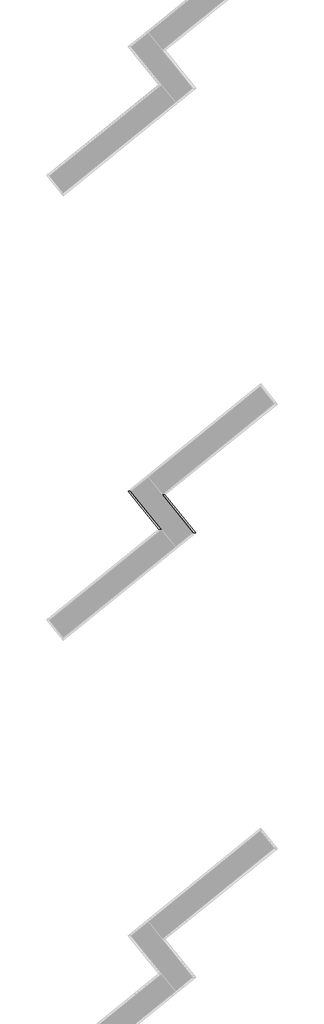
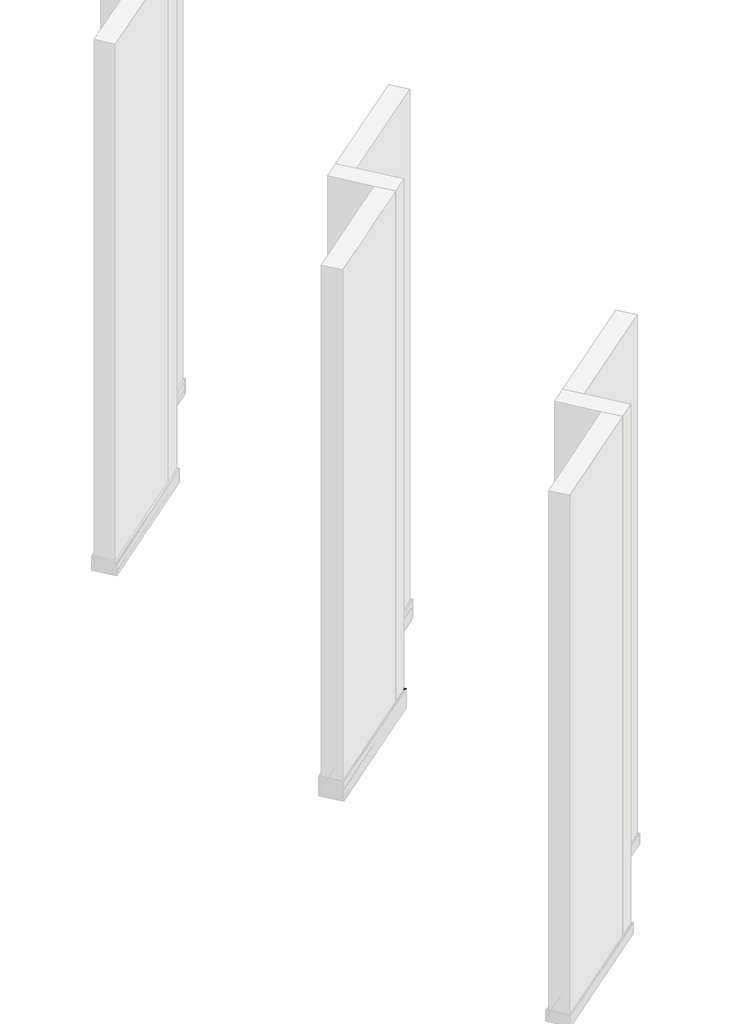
# One storey, part 8 of 21: 2 proxies.
"""IFC4 building model written with IfcOpenShell, lengths in millimetres."""

import ifcopenshell
import ifcopenshell.guid

model = None  # the IFC model being written
_history = None  # IfcOwnerHistory: only IFC2X3 demands one
_inside = {}  # id of a spatial element -> (the spatial element, [elements in it])
_under = {}  # id of a project, library or spatial element -> (it, [spatial elements below it])
_declared = {}  # id of a project -> (the project, [libraries it declares])
_typed = {}  # id of a type object -> (the type object, [elements of that type])
_made_of = {}  # id of a material, layer set ... -> (it, [elements and type objects made of it])


def new_model(schema):
    """Start an empty IFC model of exactly this schema.

    Asked for "IFC4X3", IfcOpenShell would pick the latest addendum, in which some entities
    have other attributes; the version numbers below select the first issue.
    IFC2X3 requires an IfcOwnerHistory on every rooted entity: one is made here for all.
    """
    global model, _history
    if schema == "IFC4X3":
        model = ifcopenshell.file(schema_version=(4, 3, 0, 0))
    else:
        model = ifcopenshell.file(schema=schema)
    _inside.clear()
    _under.clear()
    _declared.clear()
    _typed.clear()
    _made_of.clear()
    _history = None
    if model.schema == "IFC2X3":
        org = make("IfcOrganization", Name="unknown")
        user = make(
            "IfcPersonAndOrganization",
            ThePerson=make("IfcPerson", FamilyName="unknown"),
            TheOrganization=org,
        )
        app = make(
            "IfcApplication",
            ApplicationDeveloper=org,
            Version="unknown",
            ApplicationFullName="unknown",
            ApplicationIdentifier="unknown",
        )
        _history = make(
            "IfcOwnerHistory",
            OwningUser=user,
            OwningApplication=app,
            ChangeAction="ADDED",
            CreationDate=0,
        )
    return model


def make(cls, **values):
    """One entity of the class cls with the attributes given. An attribute that is None is left unset."""
    return model.create_entity(
        cls, **{name: value for name, value in values.items() if value is not None}
    )


def rooted(cls, **values):
    """An entity with a GlobalId (a new one), such as an element, a storey or a relation."""
    return make(cls, GlobalId=ifcopenshell.guid.new(), OwnerHistory=_history, **values)


def si_unit(unit_type, name, prefix=None):
    """IfcSIUnit, for example si_unit("LENGTHUNIT", "METRE", prefix="MILLI")."""
    return make("IfcSIUnit", UnitType=unit_type, Prefix=prefix, Name=name)


def assignment(units):
    """IfcUnitAssignment: the units of a project."""
    return None if units is None else make("IfcUnitAssignment", Units=units)


def point(xyz):
    """IfcCartesianPoint."""
    return None if xyz is None else make("IfcCartesianPoint", Coordinates=xyz)


def direction(xyz):
    """IfcDirection."""
    return None if xyz is None else make("IfcDirection", DirectionRatios=xyz)


def frame(location, z_axis=None, x_axis=None):
    """IfcAxis2Placement3D, a coordinate frame: its origin and axes. An axis left out is left unset."""
    return make(
        "IfcAxis2Placement3D",
        Location=point(location),
        Axis=direction(z_axis),
        RefDirection=direction(x_axis),
    )


def origin():
    """The frame at (0, 0, 0) with its axes left unset."""
    return frame((0.0, 0.0, 0.0))


def place(relative_to, where):
    """IfcLocalPlacement: puts the frame where relative to a parent placement (None: the world)."""
    return make(
        "IfcLocalPlacement", PlacementRelTo=relative_to, RelativePlacement=where
    )


def context(
    kind, dimensions, precision=None, world=None, true_north=None, identifier=None
):
    """IfcGeometricRepresentationContext, for example the 3D "Model" context."""
    return make(
        "IfcGeometricRepresentationContext",
        ContextIdentifier=identifier,
        ContextType=kind,
        CoordinateSpaceDimension=dimensions,
        Precision=precision,
        WorldCoordinateSystem=world,
        TrueNorth=true_north,
    )


def project(units=None, contexts=None):
    """IfcProject with its units and contexts."""
    return rooted(
        "IfcProject",
        Name="project",
        RepresentationContexts=contexts,
        UnitsInContext=assignment(units),
    )


def spatial(cls, under=None, at=None, **own):
    """A site, building, storey or space (cls), placed at a placement, below another one or the project."""
    s = rooted(cls, ObjectPlacement=at, **own)
    if under is not None:
        _under.setdefault(under.id(), (under, []))[1].append(s)
    return s


def ellipse_curve(where, semi_axis1, semi_axis2):
    """IfcEllipse in the frame where."""
    return make(
        "IfcEllipse", Position=where, SemiAxis1=semi_axis1, SemiAxis2=semi_axis2
    )


def shape(context_of_items, identifier, shape_type, items):
    """IfcShapeRepresentation: the items that make up one representation, for example the "Body"."""
    return make(
        "IfcShapeRepresentation",
        ContextOfItems=context_of_items,
        RepresentationIdentifier=identifier,
        RepresentationType=shape_type,
        Items=items,
    )


def made_of(thing, what):
    """Note that an element or type object is made of a material, layer set ...; save() writes the relation."""
    if what is not None:
        _made_of.setdefault(what.id(), (what, []))[1].append(thing)
    return thing


def element(
    cls,
    number,
    at=None,
    inside=None,
    cuts=None,
    type_object=None,
    material=None,
    context=None,
    identifier="Body",
    shape_type=None,
    held_by="IfcProductDefinitionShape",
    body=None,
    shapes=None,
    **own,
):
    """One element of the class cls, such as IfcWall. Its Tag is "e" and its number.

    at: its placement. inside: the storey or other place that contains it. cuts: it is an
    opening in that element (IfcRelVoidsElement). A single representation is given by context,
    identifier, shape_type and body (its items); several are given by shapes. held_by: the class
    of the entity that holds the representations. save() writes the other relations.
    """
    e = rooted(cls, Tag="e%d" % number, ObjectPlacement=at, **own)
    if body is not None:
        shapes = [shape(context, identifier, shape_type, body)]
    if shapes is not None:
        e.Representation = make(held_by, Representations=shapes)
    if inside is not None:
        _inside.setdefault(inside.id(), (inside, []))[1].append(e)
    if cuts is not None:
        rooted(
            "IfcRelVoidsElement", RelatingBuildingElement=cuts, RelatedOpeningElement=e
        )
    if type_object is not None:
        _typed.setdefault(type_object.id(), (type_object, []))[1].append(e)
    return made_of(e, material)


def aggregate(whole, parts):
    """IfcRelAggregates: a whole, such as a stair, and the parts it consists of."""
    return rooted("IfcRelAggregates", RelatingObject=whole, RelatedObjects=parts)


def save(model, path):
    """Write the relations noted so far, then the file.

    IfcRelAggregates (storeys below a building ...), IfcRelContainedInSpatialStructure (elements
    in a storey), IfcRelDefinesByType, IfcRelAssociatesMaterial and IfcRelDeclares: one each for
    every whole, place, type object, material and project.
    """
    for whole, parts in _under.values():
        aggregate(whole, parts)
    for where, things in _inside.values():
        rooted(
            "IfcRelContainedInSpatialStructure",
            RelatedElements=things,
            RelatingStructure=where,
        )
    for kind, things in _typed.values():
        rooted("IfcRelDefinesByType", RelatedObjects=things, RelatingType=kind)
    for what, things in _made_of.values():
        rooted("IfcRelAssociatesMaterial", RelatedObjects=things, RelatingMaterial=what)
    for by, libraries in _declared.values():
        rooted("IfcRelDeclares", RelatingContext=by, RelatedDefinitions=libraries)
    model.write(path)


def plane_surface(at):
    """IfcPlane: the flat surface through the origin of the frame at, square to its z axis."""
    return make("IfcPlane", Position=at)


def cylinder_surface(at, radius):
    """IfcCylindricalSurface: all points at the distance radius from the z axis of the frame at."""
    return make("IfcCylindricalSurface", Position=at, Radius=radius)


def advanced_brep(points, edges, surfaces, faces):
    """IfcAdvancedBrep: a solid bounded by faces that lie on surfaces and meet in shared edges.

    An edge is (start, end): straight between two places in points (the first is 0);
    or (start, end, curve); or (start, end, curve, False) where it runs against its curve.
    A face is (place in surfaces, loops), or (place, loops, False) where it looks against
    its surface's normal. A loop lists edges by number (the first is 1), with a minus sign
    where the edge is run from its end to its start. The first loop is the outer one.
    """
    corners = [point(p) for p in points]
    vertices = [make("IfcVertexPoint", VertexGeometry=c) for c in corners]
    made = []
    for start, end, *more in edges:
        made.append(
            make(
                "IfcEdgeCurve",
                EdgeStart=vertices[start],
                EdgeEnd=vertices[end],
                EdgeGeometry=more[0] if more else make("IfcPolyline", Points=[corners[start], corners[end]]),
                SameSense=more[1] if len(more) > 1 else True,
            )
        )
    hull = []
    for where, loops, *sense in faces:
        bounds = []
        for j, loop in enumerate(loops):
            ring = [make("IfcOrientedEdge", EdgeElement=made[abs(k) - 1], Orientation=k > 0) for k in loop]
            bounds.append(
                make(
                    "IfcFaceOuterBound" if j == 0 else "IfcFaceBound",
                    Bound=make("IfcEdgeLoop", EdgeList=ring),
                    Orientation=True,
                )
            )
        hull.append(make("IfcAdvancedFace", Bounds=bounds, FaceSurface=surfaces[where], SameSense=sense[0] if sense else True))
    return make("IfcAdvancedBrep", Outer=make("IfcClosedShell", CfsFaces=hull))


model = new_model("IFC4")

# Units and contexts
model_context = context("Model", 3, world=origin())
ifc_project = project(units=[si_unit("LENGTHUNIT", "METRE", prefix="MILLI")], contexts=[model_context])

# Site, building, storey
site = spatial("IfcSite", under=ifc_project)
building = spatial("IfcBuilding", under=site)
storey = spatial("IfcBuildingStorey", under=building, Name="Izofleks 2D View", Elevation=0.0)

# Proxies
placement = place(None, origin())
element("IfcBuildingElementProxy", 1, Name="Wall Sweeps", at=placement, inside=storey, context=model_context, shape_type="AdvancedBrep", body=[
    advanced_brep(
    [(2291.5537649, -5174.0238176, 49.9746979), (2293.8573559, -5174.2659347, 58.8370339), (2295.2404015, -5174.4112987, 59.6553004), (2298.9439622, -5174.8005586, 59.6553004), (2298.9439622, -5174.8005586, 103.6583819), (2294.4432653, -5174.3275163, 103.6583819), (2294.4432653, -5174.3275163, 101.6584596), (2289.5206376, -5173.8101273, 101.6584596), (2289.5206376, -5173.8101273, 102.9584585), (2292.3335659, -5174.105778, 102.9584585), (2292.3335659, -5174.105778, 104.9583814), (2300.7723685, -5174.9927318, 104.9583814), (2300.7723685, -5174.9927318, 2.9583289), (2297.9590138, -5174.6970364, 2.9583289), (2297.9590138, -5174.6970364, 0.4656126), (2296.1306076, -5174.5048631, 0.4656126), (2296.1306076, -5174.5048631, 4.2583289), (2298.9439622, -5174.8005586, 4.2583289), (2298.9439622, -5174.8005586, 28.7655004), (2295.5576132, -5174.444639, 28.7655004), (2295.2879611, -5174.4162974, 27.7479135), (2296.6513787, -5174.5595984, 27.7479135), (2297.3367663, -5174.6316355, 27.1404306), (2294.6001982, -5174.3440106, 18.30079), (2296.8922655, -5174.5849166, 18.30079), (2296.8983438, -5174.5855554, 16.99999), (2289.8664199, -5173.8464705, 16.99999), (2289.8664199, -5173.8464705, 0.0), (2288.0380278, -5173.6542987, 0.0), (2288.0380278, -5173.6542987, 54.99999), (2289.8664199, -5173.8464705, 53.99999), (2289.8664199, -5173.8464705, 47.88979), (2292.7262724, -5174.1470531, 47.88979), (2293.3982189, -5174.2176775, 48.8483083), (2430.0042509, -5344.9959291, 49.9746979), (2431.8487049, -5345.189789, 48.8483083), (2431.1767584, -5345.1191646, 47.88979), (2428.316906, -5344.818582, 47.88979), (2428.316906, -5344.818582, 53.99999), (2426.4885138, -5344.6264102, 54.99999), (2426.4885138, -5344.6264102, 0.0), (2428.316906, -5344.818582, 0.0), (2428.316906, -5344.818582, 16.99999), (2435.3488299, -5345.557667, 16.99999), (2435.3427515, -5345.5570281, 18.30079), (2433.0506843, -5345.3161221, 18.30079), (2435.7872524, -5345.603747, 27.1404306), (2435.1018647, -5345.5317099, 27.7479135), (2433.7384472, -5345.3884089, 27.7479135), (2434.0080992, -5345.4167505, 28.7655004), (2437.3944482, -5345.7726701, 28.7655004), (2437.3944482, -5345.7726701, 4.2583289), (2434.5810936, -5345.4769746, 4.2583289), (2434.5810936, -5345.4769746, 0.4656126), (2436.4094999, -5345.6691479, 0.4656126), (2436.4094999, -5345.6691479, 2.9583289), (2439.2228545, -5345.9648434, 2.9583289), (2439.2228545, -5345.9648434, 104.9583814), (2430.7840519, -5345.0778895, 104.9583814), (2430.7840519, -5345.0778895, 102.9584585), (2427.9711237, -5344.7822388, 102.9584585), (2427.9711237, -5344.7822388, 101.6584596), (2432.8937514, -5345.2996278, 101.6584596), (2432.8937514, -5345.2996278, 103.6583819), (2437.3944482, -5345.7726701, 103.6583819), (2437.3944482, -5345.7726701, 59.6553004), (2433.6908876, -5345.3834102, 59.6553004), (2432.307842, -5345.2380463, 58.8370339)],
    [
        (0, 1),
        (1, 2, ellipse_curve(frame((2295.2404015, -5174.4112987, 58.6553004), z_axis=(0.10452846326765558, 0.9945218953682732, 0.0), x_axis=(-0.9945218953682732, 0.10452846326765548, 0.0)), 1.4142136, 1.0)),
        (2, 3),
        (3, 4),
        (4, 5),
        (5, 6),
        (6, 7),
        (7, 8),
        (8, 9),
        (9, 10),
        (10, 11),
        (11, 12),
        (12, 13),
        (13, 14),
        (14, 15),
        (15, 16),
        (16, 17),
        (17, 18),
        (18, 19),
        (19, 20),
        (20, 21),
        (21, 22, ellipse_curve(frame((2296.6499722, -5174.5594505, 27.2479135), z_axis=(0.10452846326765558, 0.9945218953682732, 0.0), x_axis=(-0.9945218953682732, 0.10452846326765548, 0.0)), 0.7071082, 0.500001)),
        (22, 23),
        (23, 24),
        (24, 25, ellipse_curve(frame((2296.7280877, -5174.5676608, 17.649995), z_axis=(0.10452846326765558, 0.9945218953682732, 0.0), x_axis=(-0.9945218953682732, 0.10452846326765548, 0.0)), 0.935051, 0.6611809)),
        (25, 26),
        (26, 27),
        (27, 28),
        (28, 29),
        (29, 30, ellipse_curve(frame((2288.3885058, -5173.6911354, 53.9789482), z_axis=(0.10452846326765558, 0.9945218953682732, 0.0), x_axis=(-0.9945218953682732, 0.10452846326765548, 0.0)), 1.4863528, 1.0510102)),
        (30, 31),
        (31, 32),
        (32, 33),
        (33, 0, ellipse_curve(frame((2292.9368105, -5174.1691815, 49.7929644), z_axis=(0.10452846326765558, 0.9945218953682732, 0.0), x_axis=(-0.9945218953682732, 0.10452846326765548, 0.0)), 1.4142136, 1.0)),
        (34, 35, ellipse_curve(frame((2431.3872965, -5345.141293, 49.7929644), z_axis=(-0.1045284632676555, -0.9945218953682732, 0.0), x_axis=(-0.9945218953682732, 0.1045284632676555, 0.0)), 1.4142136, 1.0)),
        (35, 36),
        (36, 37),
        (37, 38),
        (38, 39, ellipse_curve(frame((2426.8389918, -5344.663247, 53.9789482), z_axis=(-0.1045284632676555, -0.9945218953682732, 0.0), x_axis=(-0.9945218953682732, 0.1045284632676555, 0.0)), 1.4863528, 1.0510102)),
        (39, 40),
        (40, 41),
        (41, 42),
        (42, 43),
        (43, 44, ellipse_curve(frame((2435.1785737, -5345.5397723, 17.649995), z_axis=(-0.1045284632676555, -0.9945218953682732, 0.0), x_axis=(-0.9945218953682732, 0.1045284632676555, 0.0)), 0.935051, 0.6611809)),
        (44, 45),
        (45, 46),
        (46, 47, ellipse_curve(frame((2435.1004582, -5345.5315621, 27.2479135), z_axis=(-0.1045284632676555, -0.9945218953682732, 0.0), x_axis=(-0.9945218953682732, 0.1045284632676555, 0.0)), 0.7071082, 0.500001)),
        (47, 48),
        (48, 49),
        (49, 50),
        (50, 51),
        (51, 52),
        (52, 53),
        (53, 54),
        (54, 55),
        (55, 56),
        (56, 57),
        (57, 58),
        (58, 59),
        (59, 60),
        (60, 61),
        (61, 62),
        (62, 63),
        (63, 64),
        (64, 65),
        (65, 66),
        (66, 67, ellipse_curve(frame((2433.6908876, -5345.3834102, 58.6553004), z_axis=(-0.1045284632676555, -0.9945218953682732, 0.0), x_axis=(-0.9945218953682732, 0.1045284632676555, 0.0)), 1.4142136, 1.0)),
        (67, 34),
        (0, 34),
        (67, 1),
        (66, 2),
        (65, 3),
        (64, 4),
        (63, 5),
        (62, 6),
        (61, 7),
        (60, 8),
        (59, 9),
        (58, 10),
        (57, 11),
        (56, 12),
        (55, 13),
        (54, 14),
        (53, 15),
        (52, 16),
        (51, 17),
        (50, 18),
        (49, 19),
        (48, 20),
        (47, 21),
        (46, 22),
        (45, 23),
        (44, 24),
        (43, 25),
        (42, 26),
        (41, 27),
        (40, 28),
        (39, 29),
        (38, 30),
        (37, 31),
        (36, 32),
        (35, 33),
    ],
    [
        plane_surface(frame((2288.0380278, -5173.6542987, -304.8), z_axis=(0.10452846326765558, 0.9945218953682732, 0.0), x_axis=(0.9945218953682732, -0.10452846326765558, 0.0))),
        plane_surface(frame((2426.4885138, -5344.6264102, 304.8), z_axis=(-0.1045284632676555, -0.9945218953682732, 0.0), x_axis=(-0.9945218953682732, 0.1045284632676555, 0.0))),
        plane_surface(frame((2291.5537649, -5174.0238176, 49.9746979), z_axis=(-0.7642047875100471, -0.6188408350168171, 0.18173349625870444), x_axis=(0.6293203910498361, -0.777145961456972, 0.0))),
        cylinder_surface(frame((2292.0177146, -5170.4316118, 58.6553004), z_axis=(-0.629320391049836, 0.7771459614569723, 0.0), x_axis=(-0.7642047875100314, -0.618840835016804, 0.1817334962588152)), 1.0),
        plane_surface(frame((2295.2404015, -5174.4112987, 59.6553004), z_axis=(0.0, 0.0, 1.0), x_axis=(0.6293203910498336, -0.777145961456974, 0.0))),
        plane_surface(frame((2298.9439622, -5174.8005586, 59.6553004), z_axis=(-0.777145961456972, -0.6293203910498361, 0.0), x_axis=(0.6293203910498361, -0.777145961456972, 0.0))),
        plane_surface(frame((2298.9439622, -5174.8005586, 103.6583819), z_axis=(0.0, 0.0, -1.0), x_axis=(0.6293203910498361, -0.777145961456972, 0.0))),
        plane_surface(frame((2294.4432653, -5174.3275163, 103.6583819), z_axis=(0.777145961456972, 0.6293203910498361, 0.0), x_axis=(0.6293203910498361, -0.777145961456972, 0.0))),
        plane_surface(frame((2294.4432653, -5174.3275163, 101.6584596), z_axis=(0.0, 0.0, -1.0), x_axis=(0.6293203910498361, -0.777145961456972, 0.0))),
        plane_surface(frame((2289.5206376, -5173.8101273, 101.6584596), z_axis=(-0.777145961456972, -0.6293203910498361, 0.0), x_axis=(0.6293203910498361, -0.777145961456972, 0.0))),
        plane_surface(frame((2289.5206376, -5173.8101273, 102.9584585), z_axis=(0.0, 0.0, 1.0), x_axis=(0.6293203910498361, -0.777145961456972, 0.0))),
        plane_surface(frame((2292.3335659, -5174.105778, 102.9584585), z_axis=(-0.777145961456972, -0.6293203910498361, 0.0), x_axis=(0.6293203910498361, -0.777145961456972, 0.0))),
        plane_surface(frame((2292.3335659, -5174.105778, 104.9583814), z_axis=(0.0, 0.0, 1.0), x_axis=(0.6293203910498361, -0.777145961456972, 0.0))),
        plane_surface(frame((2300.7723685, -5174.9927318, 104.9583814), z_axis=(0.7771459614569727, 0.6293203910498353, 0.0), x_axis=(0.6293203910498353, -0.7771459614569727, 0.0))),
        plane_surface(frame((2300.7723685, -5174.9927318, 2.9583289), z_axis=(0.0, 0.0, -1.0), x_axis=(0.6293203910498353, -0.7771459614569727, 0.0))),
        plane_surface(frame((2297.9590138, -5174.6970364, 2.9583289), z_axis=(0.777145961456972, 0.6293203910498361, 0.0), x_axis=(0.6293203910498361, -0.777145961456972, 0.0))),
        plane_surface(frame((2297.9590138, -5174.6970364, 0.4656126), z_axis=(0.0, 0.0, -1.0), x_axis=(0.6293203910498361, -0.777145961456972, 0.0))),
        plane_surface(frame((2296.1306076, -5174.5048631, 0.4656126), z_axis=(-0.777145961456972, -0.6293203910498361, 0.0), x_axis=(0.6293203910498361, -0.777145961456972, 0.0))),
        plane_surface(frame((2296.1306076, -5174.5048631, 4.2583289), z_axis=(0.0, 0.0, 1.0), x_axis=(0.6293203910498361, -0.777145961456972, 0.0))),
        plane_surface(frame((2298.9439622, -5174.8005586, 4.2583289), z_axis=(-0.777145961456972, -0.6293203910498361, 0.0), x_axis=(0.6293203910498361, -0.777145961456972, 0.0))),
        plane_surface(frame((2298.9439622, -5174.8005586, 28.7655004), z_axis=(0.0, 0.0, -1.0), x_axis=(0.6293203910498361, -0.777145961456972, 0.0))),
        plane_surface(frame((2295.5576132, -5174.444639, 28.7655004), z_axis=(0.7637090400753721, 0.6184393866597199, -0.1851519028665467), x_axis=(0.6293203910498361, -0.777145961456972, 0.0))),
        plane_surface(frame((2295.2879611, -5174.4162974, 27.7479135), z_axis=(0.0, 0.0, 1.0), x_axis=(0.6293203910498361, -0.777145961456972, 0.0))),
        cylinder_surface(frame((2292.7965759, -5169.8009024, 27.2479135), z_axis=(-0.6293203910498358, 0.7771459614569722, 0.0), x_axis=(0.7771459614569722, 0.6293203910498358, 0.0)), 0.500001),
        plane_surface(frame((2297.3367663, -5174.6316355, 27.1404306), z_axis=(0.7589775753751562, 0.6146079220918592, -0.21496544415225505), x_axis=(0.6293203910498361, -0.777145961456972, 0.0))),
        plane_surface(frame((2294.6001982, -5174.3440106, 18.30079), z_axis=(0.0, 0.0, 1.0), x_axis=(0.6293203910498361, -0.777145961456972, 0.0))),
        cylinder_surface(frame((2292.8397388, -5169.7659498, 17.649995), z_axis=(-0.6293203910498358, 0.7771459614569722, 0.0), x_axis=(0.7771459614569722, 0.6293203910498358, 0.0)), 0.6611809),
        plane_surface(frame((2296.8983438, -5174.5855554, 16.99999), z_axis=(0.0, 0.0, -1.0), x_axis=(0.6293203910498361, -0.777145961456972, 0.0))),
        plane_surface(frame((2289.8664199, -5173.8464705, 16.99999), z_axis=(0.777145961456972, 0.6293203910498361, 0.0), x_axis=(0.6293203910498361, -0.777145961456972, 0.0))),
        plane_surface(frame((2289.8664199, -5173.8464705, 0.0), z_axis=(0.0, 0.0, -1.0), x_axis=(0.6293203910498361, -0.777145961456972, 0.0))),
        plane_surface(frame((2288.0380278, -5173.6542987, 0.0), z_axis=(-0.777145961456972, -0.6293203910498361, 0.0), x_axis=(0.6293203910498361, -0.777145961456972, 0.0))),
        cylinder_surface(frame((2288.2316851, -5173.497478, 53.9789482), z_axis=(-0.6293203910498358, 0.7771459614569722, 0.0), x_axis=(0.7771459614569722, 0.6293203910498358, 0.0)), 1.0510102),
        plane_surface(frame((2289.8664199, -5173.8464705, 53.99999), z_axis=(0.777145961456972, 0.6293203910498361, 0.0), x_axis=(0.6293203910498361, -0.777145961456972, 0.0))),
        plane_surface(frame((2289.8664199, -5173.8464705, 47.88979), z_axis=(0.0, 0.0, 1.0), x_axis=(0.6293203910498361, -0.777145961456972, 0.0))),
        plane_surface(frame((2292.7262724, -5174.1470531, 47.88979), z_axis=(-0.6955364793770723, -0.5632343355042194, 0.4460897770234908), x_axis=(0.6293203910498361, -0.777145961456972, 0.0))),
        cylinder_surface(frame((2290.7448605, -5171.4623487, 49.7929644), z_axis=(-0.6293203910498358, 0.7771459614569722, 0.0), x_axis=(0.7771459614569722, 0.6293203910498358, 0.0)), 1.0),
    ],
    [
        (0, [[1, 2, 3, 4, 5, 6, 7, 8, 9, 10, 11, 12, 13, 14, 15, 16, 17, 18, 19, 20, 21, 22, 23, 24, 25, 26, 27, 28, 29, 30, 31, 32, 33, 34]]),
        (1, [[35, 36, 37, 38, 39, 40, 41, 42, 43, 44, 45, 46, 47, 48, 49, 50, 51, 52, 53, 54, 55, 56, 57, 58, 59, 60, 61, 62, 63, 64, 65, 66, 67, 68]]),
        (2, [[-1, 69, -68, 70]]),
        (3, [[-2, -70, -67, 71]]),
        (4, [[-3, -71, -66, 72]]),
        (5, [[-4, -72, -65, 73]]),
        (6, [[-5, -73, -64, 74]]),
        (7, [[-6, -74, -63, 75]]),
        (8, [[-7, -75, -62, 76]]),
        (9, [[-8, -76, -61, 77]]),
        (10, [[-9, -77, -60, 78]]),
        (11, [[-10, -78, -59, 79]]),
        (12, [[-11, -79, -58, 80]]),
        (13, [[-12, -80, -57, 81]]),
        (14, [[-13, -81, -56, 82]]),
        (15, [[-14, -82, -55, 83]]),
        (16, [[-15, -83, -54, 84]]),
        (17, [[-16, -84, -53, 85]]),
        (18, [[-17, -85, -52, 86]]),
        (19, [[-18, -86, -51, 87]]),
        (20, [[-19, -87, -50, 88]]),
        (21, [[-20, -88, -49, 89]]),
        (22, [[-21, -89, -48, 90]]),
        (23, [[-22, -90, -47, 91]]),
        (24, [[-23, -91, -46, 92]]),
        (25, [[-24, -92, -45, 93]]),
        (26, [[-25, -93, -44, 94]]),
        (27, [[-26, -94, -43, 95]]),
        (28, [[-27, -95, -42, 96]]),
        (29, [[-28, -96, -41, 97]]),
        (30, [[-29, -97, -40, 98]]),
        (31, [[-30, -98, -39, 99]]),
        (32, [[-31, -99, -38, 100]]),
        (33, [[-32, -100, -37, 101]]),
        (34, [[-33, -101, -36, 102]]),
        (35, [[-34, -102, -35, -69]]),
    ],
),
])
element("IfcBuildingElementProxy", 2, Name="Wall Sweeps", at=placement, inside=storey, context=model_context, shape_type="AdvancedBrep", body=[
    advanced_brep(
    [(2143.8756554, -5158.5022228, 49.9746979), (2142.0312014, -5158.3083629, 48.8483083), (2142.7031479, -5158.3789873, 47.88979), (2145.5630003, -5158.6795699, 47.88979), (2145.5630003, -5158.6795699, 53.99999), (2147.3913925, -5158.8717417, 54.99999), (2147.3913925, -5158.8717417, 0.0), (2145.5630003, -5158.6795699, 0.0), (2145.5630003, -5158.6795699, 16.99999), (2138.5310764, -5157.9404849, 16.99999), (2138.5371548, -5157.9411238, 18.30079), (2140.829222, -5158.1820298, 18.30079), (2138.0926539, -5157.8944049, 27.1404306), (2138.7780416, -5157.966442, 27.7479135), (2140.1414591, -5158.109743, 27.7479135), (2139.8718071, -5158.0814014, 28.7655004), (2136.485458, -5157.7254818, 28.7655004), (2136.485458, -5157.7254818, 4.2583289), (2139.2988127, -5158.0211772, 4.2583289), (2139.2988127, -5158.0211772, 0.4656126), (2137.4704064, -5157.829004, 0.4656126), (2137.4704064, -5157.829004, 2.9583289), (2134.6570518, -5157.5333085, 2.9583289), (2134.6570518, -5157.5333085, 104.9583814), (2143.0958544, -5158.4202624, 104.9583814), (2143.0958544, -5158.4202624, 102.9584585), (2145.9087826, -5158.7159131, 102.9584585), (2145.9087826, -5158.7159131, 101.6584596), (2140.9861549, -5158.1985241, 101.6584596), (2140.9861549, -5158.1985241, 103.6583819), (2136.485458, -5157.7254818, 103.6583819), (2136.485458, -5157.7254818, 59.6553004), (2140.1890187, -5158.1147417, 59.6553004), (2141.5720643, -5158.2601056, 58.8370339), (2282.3261414, -5329.4743343, 49.9746979), (2280.0225504, -5329.2322171, 58.8370339), (2278.6395047, -5329.0868532, 59.6553004), (2274.9359441, -5328.6975933, 59.6553004), (2274.9359441, -5328.6975933, 103.6583819), (2279.436641, -5329.1706356, 103.6583819), (2279.436641, -5329.1706356, 101.6584596), (2284.3592686, -5329.6880246, 101.6584596), (2284.3592686, -5329.6880246, 102.9584585), (2281.5463404, -5329.3923739, 102.9584585), (2281.5463404, -5329.3923739, 104.9583814), (2273.1075378, -5328.50542, 104.9583814), (2273.1075378, -5328.50542, 2.9583289), (2275.9208925, -5328.8011155, 2.9583289), (2275.9208925, -5328.8011155, 0.4656126), (2277.7492987, -5328.9932888, 0.4656126), (2277.7492987, -5328.9932888, 4.2583289), (2274.9359441, -5328.6975933, 4.2583289), (2274.9359441, -5328.6975933, 28.7655004), (2278.3222931, -5329.0535129, 28.7655004), (2278.5919451, -5329.0818545, 27.7479135), (2277.2285276, -5328.9385535, 27.7479135), (2276.54314, -5328.8665164, 27.1404306), (2279.279708, -5329.1541413, 18.30079), (2276.9876408, -5328.9132353, 18.30079), (2276.9815625, -5328.9125964, 16.99999), (2284.0134863, -5329.6516814, 16.99999), (2284.0134863, -5329.6516814, 0.0), (2285.8418785, -5329.8438532, 0.0), (2285.8418785, -5329.8438532, 54.99999), (2284.0134863, -5329.6516814, 53.99999), (2284.0134863, -5329.6516814, 47.88979), (2281.1536339, -5329.3510988, 47.88979), (2280.4816874, -5329.2804744, 48.8483083)],
    [
        (0, 1, ellipse_curve(frame((2142.4926097, -5158.3568588, 49.7929644), z_axis=(0.10452846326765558, 0.9945218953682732, 0.0), x_axis=(-0.9945218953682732, 0.10452846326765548, 0.0)), 1.4142136, 1.0)),
        (1, 2),
        (2, 3),
        (3, 4),
        (4, 5, ellipse_curve(frame((2147.0409144, -5158.8349049, 53.9789482), z_axis=(0.10452846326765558, 0.9945218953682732, 0.0), x_axis=(-0.9945218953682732, 0.10452846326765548, 0.0)), 1.4863528, 1.0510102)),
        (5, 6),
        (6, 7),
        (7, 8),
        (8, 9),
        (9, 10, ellipse_curve(frame((2138.7013325, -5157.9583796, 17.649995), z_axis=(0.10452846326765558, 0.9945218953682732, 0.0), x_axis=(-0.9945218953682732, 0.10452846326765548, 0.0)), 0.935051, 0.6611809)),
        (10, 11),
        (11, 12),
        (12, 13, ellipse_curve(frame((2138.7794481, -5157.9665898, 27.2479135), z_axis=(0.10452846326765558, 0.9945218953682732, 0.0), x_axis=(-0.9945218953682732, 0.10452846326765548, 0.0)), 0.7071082, 0.500001)),
        (13, 14),
        (14, 15),
        (15, 16),
        (16, 17),
        (17, 18),
        (18, 19),
        (19, 20),
        (20, 21),
        (21, 22),
        (22, 23),
        (23, 24),
        (24, 25),
        (25, 26),
        (26, 27),
        (27, 28),
        (28, 29),
        (29, 30),
        (30, 31),
        (31, 32),
        (32, 33, ellipse_curve(frame((2140.1890187, -5158.1147417, 58.6553004), z_axis=(0.10452846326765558, 0.9945218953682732, 0.0), x_axis=(-0.9945218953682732, 0.10452846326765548, 0.0)), 1.4142136, 1.0)),
        (33, 0),
        (34, 35),
        (35, 36, ellipse_curve(frame((2278.6395047, -5329.0868532, 58.6553004), z_axis=(-0.1045284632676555, -0.9945218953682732, 0.0), x_axis=(-0.9945218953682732, 0.1045284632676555, 0.0)), 1.4142136, 1.0)),
        (36, 37),
        (37, 38),
        (38, 39),
        (39, 40),
        (40, 41),
        (41, 42),
        (42, 43),
        (43, 44),
        (44, 45),
        (45, 46),
        (46, 47),
        (47, 48),
        (48, 49),
        (49, 50),
        (50, 51),
        (51, 52),
        (52, 53),
        (53, 54),
        (54, 55),
        (55, 56, ellipse_curve(frame((2277.2299341, -5328.9387013, 27.2479135), z_axis=(-0.1045284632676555, -0.9945218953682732, 0.0), x_axis=(-0.9945218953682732, 0.1045284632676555, 0.0)), 0.7071082, 0.500001)),
        (56, 57),
        (57, 58),
        (58, 59, ellipse_curve(frame((2277.1518186, -5328.9304911, 17.649995), z_axis=(-0.1045284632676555, -0.9945218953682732, 0.0), x_axis=(-0.9945218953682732, 0.1045284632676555, 0.0)), 0.935051, 0.6611809)),
        (59, 60),
        (60, 61),
        (61, 62),
        (62, 63),
        (63, 64, ellipse_curve(frame((2285.4914005, -5329.8070165, 53.9789482), z_axis=(-0.1045284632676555, -0.9945218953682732, 0.0), x_axis=(-0.9945218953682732, 0.1045284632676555, 0.0)), 1.4863528, 1.0510102)),
        (64, 65),
        (65, 66),
        (66, 67),
        (67, 34, ellipse_curve(frame((2280.9430958, -5329.3289704, 49.7929644), z_axis=(-0.1045284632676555, -0.9945218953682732, 0.0), x_axis=(-0.9945218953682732, 0.1045284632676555, 0.0)), 1.4142136, 1.0)),
        (0, 34),
        (67, 1),
        (66, 2),
        (65, 3),
        (64, 4),
        (63, 5),
        (62, 6),
        (61, 7),
        (60, 8),
        (59, 9),
        (58, 10),
        (57, 11),
        (56, 12),
        (55, 13),
        (54, 14),
        (53, 15),
        (52, 16),
        (51, 17),
        (50, 18),
        (49, 19),
        (48, 20),
        (47, 21),
        (46, 22),
        (45, 23),
        (44, 24),
        (43, 25),
        (42, 26),
        (41, 27),
        (40, 28),
        (39, 29),
        (38, 30),
        (37, 31),
        (36, 32),
        (35, 33),
    ],
    [
        plane_surface(frame((2147.3913925, -5158.8717417, -304.8), z_axis=(0.10452846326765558, 0.9945218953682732, 0.0), x_axis=(0.9945218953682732, -0.10452846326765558, 0.0))),
        plane_surface(frame((2285.8418785, -5329.8438532, 304.8), z_axis=(-0.1045284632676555, -0.9945218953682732, 0.0), x_axis=(-0.9945218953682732, 0.1045284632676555, 0.0))),
        cylinder_surface(frame((2144.6845597, -5161.0636916, 49.7929644), z_axis=(-0.6293203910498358, 0.7771459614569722, 0.0), x_axis=(-0.7771459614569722, -0.6293203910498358, 0.0)), 1.0),
        plane_surface(frame((2142.0312014, -5158.3083629, 48.8483083), z_axis=(0.6955364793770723, 0.5632343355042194, 0.4460897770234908), x_axis=(0.6293203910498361, -0.777145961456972, 0.0))),
        plane_surface(frame((2142.7031479, -5158.3789873, 47.88979), z_axis=(0.0, 0.0, 1.0), x_axis=(0.6293203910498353, -0.7771459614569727, 0.0))),
        plane_surface(frame((2145.5630003, -5158.6795699, 47.88979), z_axis=(-0.777145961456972, -0.6293203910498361, 0.0), x_axis=(0.6293203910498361, -0.777145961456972, 0.0))),
        cylinder_surface(frame((2147.1977351, -5159.0285623, 53.9789482), z_axis=(-0.6293203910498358, 0.7771459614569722, 0.0), x_axis=(-0.7771459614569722, -0.6293203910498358, 0.0)), 1.0510102),
        plane_surface(frame((2147.3913925, -5158.8717417, 54.99999), z_axis=(0.777145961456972, 0.6293203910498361, 0.0), x_axis=(0.6293203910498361, -0.777145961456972, 0.0))),
        plane_surface(frame((2147.3913925, -5158.8717417, 0.0), z_axis=(0.0, 0.0, -1.0), x_axis=(0.6293203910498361, -0.777145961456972, 0.0))),
        plane_surface(frame((2145.5630003, -5158.6795699, 0.0), z_axis=(-0.777145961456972, -0.6293203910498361, 0.0), x_axis=(0.6293203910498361, -0.777145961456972, 0.0))),
        plane_surface(frame((2145.5630003, -5158.6795699, 16.99999), z_axis=(0.0, 0.0, -1.0), x_axis=(0.6293203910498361, -0.777145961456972, 0.0))),
        cylinder_surface(frame((2142.5896815, -5162.7600906, 17.649995), z_axis=(-0.6293203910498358, 0.7771459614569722, 0.0), x_axis=(-0.7771459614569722, -0.6293203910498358, 0.0)), 0.6611809),
        plane_surface(frame((2138.5371548, -5157.9411238, 18.30079), z_axis=(0.0, 0.0, 1.0), x_axis=(0.6293203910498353, -0.7771459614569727, 0.0))),
        plane_surface(frame((2140.829222, -5158.1820298, 18.30079), z_axis=(-0.7589775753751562, -0.6146079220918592, -0.21496544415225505), x_axis=(0.6293203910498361, -0.777145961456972, 0.0))),
        cylinder_surface(frame((2142.6328444, -5162.725138, 27.2479135), z_axis=(-0.6293203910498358, 0.7771459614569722, 0.0), x_axis=(-0.7771459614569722, -0.6293203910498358, 0.0)), 0.500001),
        plane_surface(frame((2138.7780416, -5157.966442, 27.7479135), z_axis=(0.0, 0.0, 1.0), x_axis=(0.6293203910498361, -0.777145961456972, 0.0))),
        plane_surface(frame((2140.1414591, -5158.109743, 27.7479135), z_axis=(-0.7637090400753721, -0.6184393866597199, -0.1851519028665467), x_axis=(0.6293203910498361, -0.777145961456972, 0.0))),
        plane_surface(frame((2139.8718071, -5158.0814014, 28.7655004), z_axis=(0.0, 0.0, -1.0), x_axis=(0.6293203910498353, -0.7771459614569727, 0.0))),
        plane_surface(frame((2136.485458, -5157.7254818, 28.7655004), z_axis=(0.7771459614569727, 0.6293203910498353, 0.0), x_axis=(0.6293203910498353, -0.7771459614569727, 0.0))),
        plane_surface(frame((2136.485458, -5157.7254818, 4.2583289), z_axis=(0.0, 0.0, 1.0), x_axis=(0.6293203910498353, -0.7771459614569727, 0.0))),
        plane_surface(frame((2139.2988127, -5158.0211772, 4.2583289), z_axis=(0.777145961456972, 0.6293203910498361, 0.0), x_axis=(0.6293203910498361, -0.777145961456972, 0.0))),
        plane_surface(frame((2139.2988127, -5158.0211772, 0.4656126), z_axis=(0.0, 0.0, -1.0), x_axis=(0.6293203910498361, -0.777145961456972, 0.0))),
        plane_surface(frame((2137.4704064, -5157.829004, 0.4656126), z_axis=(-0.777145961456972, -0.6293203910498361, 0.0), x_axis=(0.6293203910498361, -0.777145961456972, 0.0))),
        plane_surface(frame((2137.4704064, -5157.829004, 2.9583289), z_axis=(0.0, 0.0, -1.0), x_axis=(0.6293203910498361, -0.777145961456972, 0.0))),
        plane_surface(frame((2134.6570518, -5157.5333085, 2.9583289), z_axis=(-0.777145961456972, -0.6293203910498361, 0.0), x_axis=(0.6293203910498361, -0.777145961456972, 0.0))),
        plane_surface(frame((2134.6570518, -5157.5333085, 104.9583814), z_axis=(0.0, 0.0, 1.0), x_axis=(0.6293203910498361, -0.777145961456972, 0.0))),
        plane_surface(frame((2143.0958544, -5158.4202624, 104.9583814), z_axis=(0.7771459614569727, 0.6293203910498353, 0.0), x_axis=(0.6293203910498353, -0.7771459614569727, 0.0))),
        plane_surface(frame((2143.0958544, -5158.4202624, 102.9584585), z_axis=(0.0, 0.0, 1.0), x_axis=(0.6293203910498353, -0.7771459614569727, 0.0))),
        plane_surface(frame((2145.9087826, -5158.7159131, 102.9584585), z_axis=(0.777145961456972, 0.6293203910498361, 0.0), x_axis=(0.6293203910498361, -0.777145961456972, 0.0))),
        plane_surface(frame((2145.9087826, -5158.7159131, 101.6584596), z_axis=(0.0, 0.0, -1.0), x_axis=(0.6293203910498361, -0.777145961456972, 0.0))),
        plane_surface(frame((2140.9861549, -5158.1985241, 101.6584596), z_axis=(-0.777145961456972, -0.6293203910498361, 0.0), x_axis=(0.6293203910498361, -0.777145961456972, 0.0))),
        plane_surface(frame((2140.9861549, -5158.1985241, 103.6583819), z_axis=(0.0, 0.0, -1.0), x_axis=(0.6293203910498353, -0.7771459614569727, 0.0))),
        plane_surface(frame((2136.485458, -5157.7254818, 103.6583819), z_axis=(0.7771459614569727, 0.6293203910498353, 0.0), x_axis=(0.6293203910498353, -0.7771459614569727, 0.0))),
        plane_surface(frame((2136.485458, -5157.7254818, 59.6553004), z_axis=(0.0, 0.0, 1.0), x_axis=(0.6293203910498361, -0.777145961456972, 0.0))),
        cylinder_surface(frame((2143.4117056, -5162.0944286, 58.6553004), z_axis=(-0.629320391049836, 0.7771459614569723, 0.0), x_axis=(0.7642047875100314, 0.618840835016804, 0.1817334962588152)), 1.0),
        plane_surface(frame((2141.5720643, -5158.2601056, 58.8370339), z_axis=(0.7642047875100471, 0.6188408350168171, 0.18173349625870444), x_axis=(0.6293203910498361, -0.777145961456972, 0.0))),
    ],
    [
        (0, [[1, 2, 3, 4, 5, 6, 7, 8, 9, 10, 11, 12, 13, 14, 15, 16, 17, 18, 19, 20, 21, 22, 23, 24, 25, 26, 27, 28, 29, 30, 31, 32, 33, 34]]),
        (1, [[35, 36, 37, 38, 39, 40, 41, 42, 43, 44, 45, 46, 47, 48, 49, 50, 51, 52, 53, 54, 55, 56, 57, 58, 59, 60, 61, 62, 63, 64, 65, 66, 67, 68]]),
        (2, [[-1, 69, -68, 70]]),
        (3, [[-2, -70, -67, 71]]),
        (4, [[-3, -71, -66, 72]]),
        (5, [[-4, -72, -65, 73]]),
        (6, [[-5, -73, -64, 74]]),
        (7, [[-6, -74, -63, 75]]),
        (8, [[-7, -75, -62, 76]]),
        (9, [[-8, -76, -61, 77]]),
        (10, [[-9, -77, -60, 78]]),
        (11, [[-10, -78, -59, 79]]),
        (12, [[-11, -79, -58, 80]]),
        (13, [[-12, -80, -57, 81]]),
        (14, [[-13, -81, -56, 82]]),
        (15, [[-14, -82, -55, 83]]),
        (16, [[-15, -83, -54, 84]]),
        (17, [[-16, -84, -53, 85]]),
        (18, [[-17, -85, -52, 86]]),
        (19, [[-18, -86, -51, 87]]),
        (20, [[-19, -87, -50, 88]]),
        (21, [[-20, -88, -49, 89]]),
        (22, [[-21, -89, -48, 90]]),
        (23, [[-22, -90, -47, 91]]),
        (24, [[-23, -91, -46, 92]]),
        (25, [[-24, -92, -45, 93]]),
        (26, [[-25, -93, -44, 94]]),
        (27, [[-26, -94, -43, 95]]),
        (28, [[-27, -95, -42, 96]]),
        (29, [[-28, -96, -41, 97]]),
        (30, [[-29, -97, -40, 98]]),
        (31, [[-30, -98, -39, 99]]),
        (32, [[-31, -99, -38, 100]]),
        (33, [[-32, -100, -37, 101]]),
        (34, [[-33, -101, -36, 102]]),
        (35, [[-34, -102, -35, -69]]),
    ],
),
])

save(model, "model.ifc")
